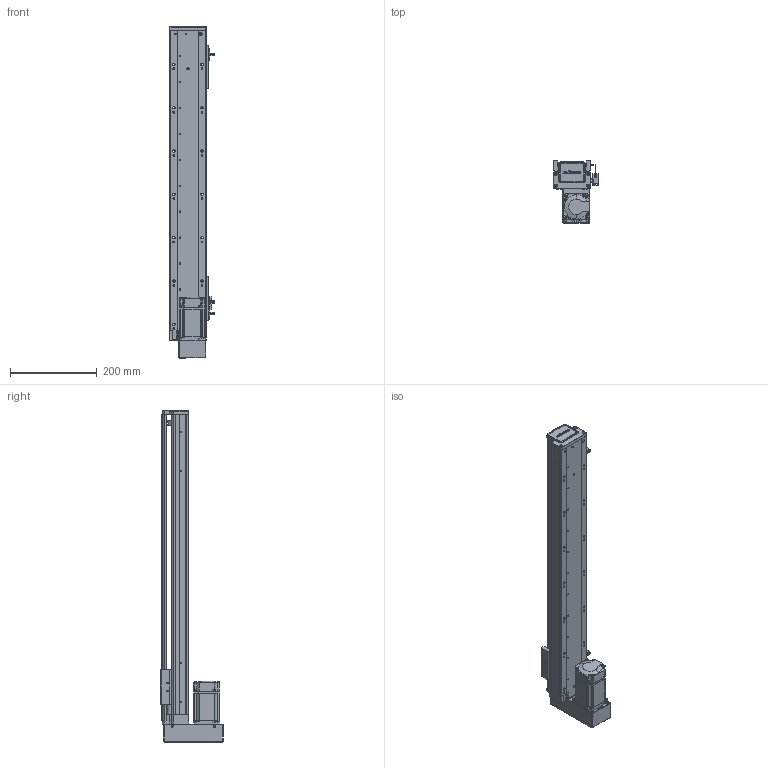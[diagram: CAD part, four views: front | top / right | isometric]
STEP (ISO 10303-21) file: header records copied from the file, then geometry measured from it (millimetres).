
FILE_DESCRIPTION (( 'STEP AP203' ), '1' );
FILE_NAME ('RY80-L1620-300-BK.SLDASM_550.step', '2021-02-20T07:10:45', ( '盈信电脑' ), ( '东莞市道滘镇水果街19号' ), 'SwSTEP 2.0', 'SolidWorks 2012', '' );
FILE_SCHEMA (( 'CONFIG_CONTROL_DESIGN' ));
Length unit declared in the file: millimetre
Products named in the file (15): RY80-L1620-300-BK.SLDASM_550; RY80狟殏萇儂假蚾啣; RY80狟殏俋欶; 侂狟200W萇儂; 滅袉蝶18-24; 1; RY80俋离覜茼え; 覜茼ん672; RY80转接电机端支撑座; 滅袉蝶18-10; T倰羞; RY80綴裔啣; RY80臏賑輸; RY80-300蛌諉倰第菁釱-BK_550; RY80-300蛌諉倰第奻裔啣-BK_550
Assembly tree (17 placements, depth 3):
  RY80-L1620-300-BK.SLDASM_550
    RY80-300蛌諉倰第菁釱-BK_550
    RY80臏賑輸
    RY80-300蛌諉倰第奻裔啣-BK_550
    RY80綴裔啣
    滅袉蝶18-10
    T倰羞  x2
    覜茼ん672  x3
    RY80俋离覜茼え
    RY80转接电机端支撑座
    侂狟200W萇儂
      1
    RY80狟殏萇儂假蚾啣
    RY80狟殏俋欶
    滅袉蝶18-24
Bounding box: 103.7 x 144 x 767 mm (x, y, z)
Volume: 1548815 mm3; surface area: 602971.1 mm2
Topology: 16 solids, 16 shells, 2171 faces, 5991 edges, 3883 vertices
Faces by surface type: plane 1172, cylinder 802, cone 135, bspline 62
Entity records: 69341 total; most frequent: CARTESIAN_POINT 17910, ORIENTED_EDGE 10678, DIRECTION 9900, EDGE_CURVE 5339, VERTEX_POINT 3499, AXIS2_PLACEMENT_3D 3311, VECTOR 3278, LINE 3278
